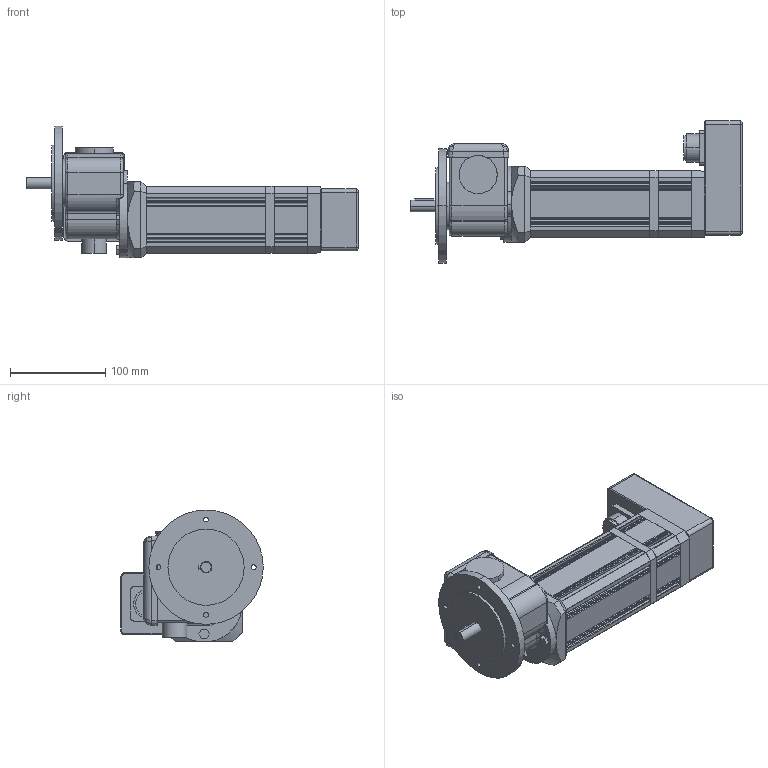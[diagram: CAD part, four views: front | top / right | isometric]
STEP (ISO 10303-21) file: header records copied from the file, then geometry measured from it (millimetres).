
FILE_DESCRIPTION(('OneSpaceDesigner STEP Export'),'2;1');
FILE_NAME('UECG313THL_GF23-10_Q.stp','2008-06-26T15:02:22',(''),(''),'OneSpace Designer STEP processor (Jan. 2003) for AP214(CD)(Solid Model)','OneSpace Designer 12.01D 09-Jul-2004 (C) CoCreate Software GmbH','');
FILE_SCHEMA(('AUTOMOTIVE_DESIGN_CC2 {1 2 10303 214 -1 1 5 1}'));
Length unit declared in the file: millimetre
Products named in the file (2): UECG313THL_GF23-10_Q
Assembly tree (1 placements, depth 2):
  UECG313THL_GF23-10_Q
    UECG313THL_GF23-10_Q
Bounding box: 348.5 x 149.5 x 138.5 mm (x, y, z)
Volume: 1935484.9 mm3; surface area: 167241.6 mm2
Topology: 1 solids, 1 shells, 470 faces, 1242 edges, 788 vertices
Faces by surface type: plane 232, cylinder 199, torus 20, bspline 12, cone 6, sphere 1
Entity records: 16208 total; most frequent: CARTESIAN_POINT 4975, ORIENTED_EDGE 2482, DIRECTION 2179, EDGE_CURVE 1241, VERTEX_POINT 788, AXIS2_PLACEMENT_3D 729, VECTOR 721, LINE 721
